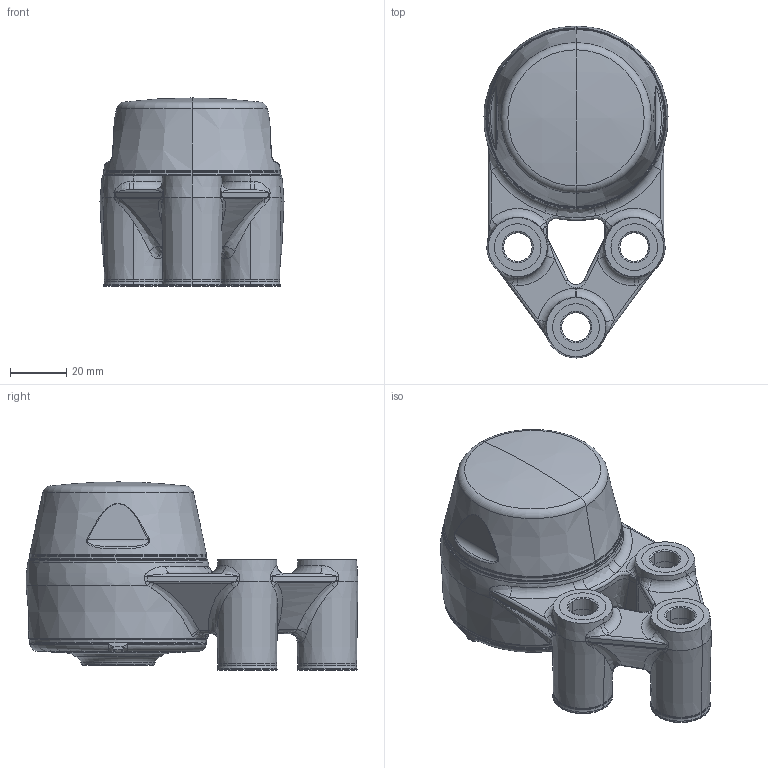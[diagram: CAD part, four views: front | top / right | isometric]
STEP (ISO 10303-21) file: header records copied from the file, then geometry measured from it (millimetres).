
FILE_DESCRIPTION (( 'STEP AP203' ), '1' );
FILE_NAME ('XB3FC52(Blue)-CSB2500(Front)-CL(Blue)-OS(Blue)_Shell.step', '2020-09-22T08:23:08', ( '' ), ( '' ), 'SwSTEP 2.0', 'SolidWorks 2019', '' );
FILE_SCHEMA (( 'CONFIG_CONTROL_DESIGN' ));
Length unit declared in the file: millimetre
Products named in the file (1): XB3FC52(Blue)-CSB2500(Front)-CL(Blue)-OS(Blue)_Shell
Bounding box: 65.6 x 118.34 x 67.05 mm (x, y, z)
Surface area: 41498.3 mm2 (no closed solid volume)
Topology: 0 solids, 36 shells, 469 faces, 1777 edges, 1315 vertices
Faces by surface type: bspline 172, cone 86, torus 77, cylinder 64, plane 43, sphere 27
Entity records: 31992 total; most frequent: CARTESIAN_POINT 19359, ORIENTED_EDGE 2717, DIRECTION 2008, EDGE_CURVE 1775, VERTEX_POINT 1315, B_SPLINE_CURVE_WITH_KNOTS 949, AXIS2_PLACEMENT_3D 906, CIRCLE 608
